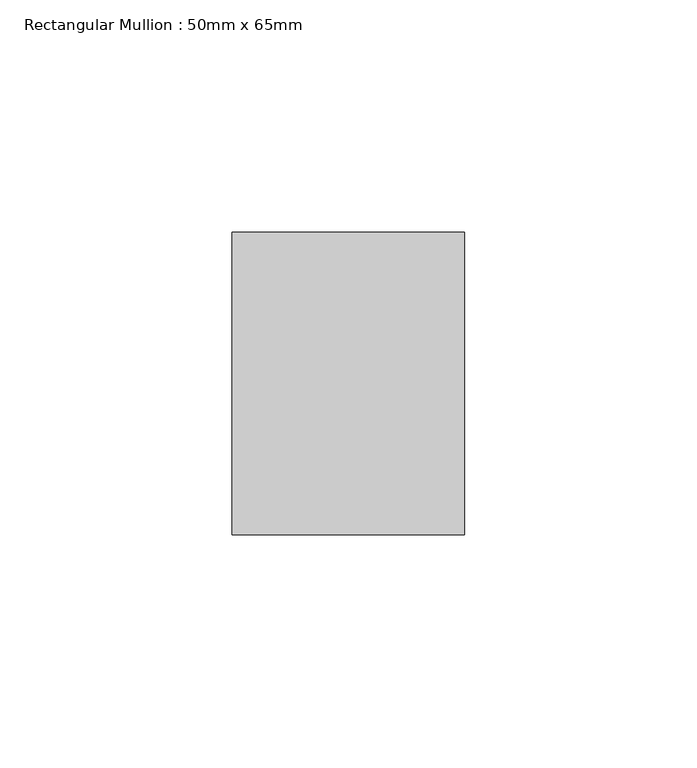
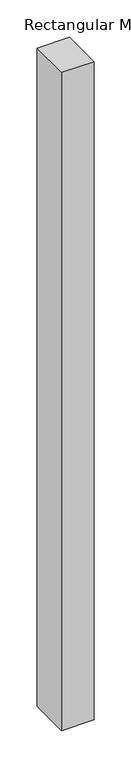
"""IFC4 building model written with IfcOpenShell, lengths in millimetres: member geometry, Rectangular Mullion : 50mm x 65mm."""

from ifc_helpers import new_model, si_unit, frame, origin, place, context, project, spatial, polyline, outline, extrude, source, transform, mapped, element, save


def rectangular_mullion_50mm_x_65mm_799d5ca8(model_context):
    return source(origin(), model_context, "Body", "SweptSolid", [
        extrude(outline(polyline([(25.0, 32.5), (25.0, -32.5), (-25.0, -32.5), (-25.0, 32.5), (25.0, 32.5)])), frame((0.0, 0.0, -1075.0000002), z_axis=(0.0, 0.0, 1.0), x_axis=(1.0, 0.0, 0.0)), (0.0, 0.0, 1.0), 1075.0000002),
    ])


if __name__ == "__main__":
    model = new_model("IFC4")
    model_context = context("Model", 3, world=origin())
    ifc_project = project(units=[si_unit("LENGTHUNIT", "METRE", prefix="MILLI")], contexts=[model_context])
    site = spatial("IfcSite", under=ifc_project)
    building = spatial("IfcBuilding", under=site)
    placement = place(None, origin())
    rectangular_mullion_50mm_x_65mm_shape = rectangular_mullion_50mm_x_65mm_799d5ca8(model_context)
    element("IfcMember", 1, ObjectType="Rectangular Mullion : 50mm x 65mm", at=placement, inside=building, context=model_context, shape_type="MappedRepresentation", body=[
        mapped(rectangular_mullion_50mm_x_65mm_shape, transform((0.0, 0.0, 0.0), x_axis=(1.0, 0.0, 0.0), y_axis=(0.0, 1.0, 0.0), z_axis=(0.0, 0.0, 1.0))),
    ])
    save(model, "model.ifc")
